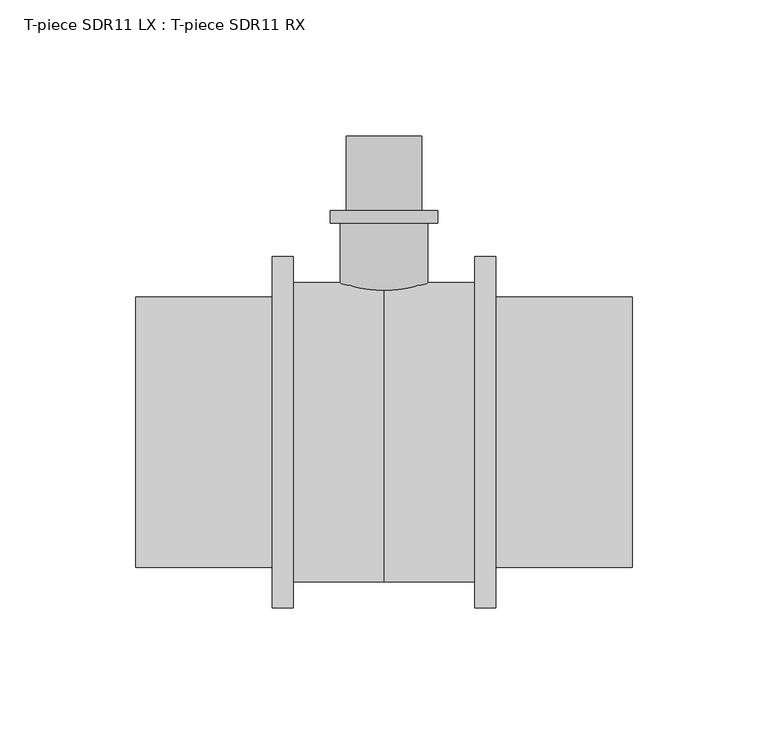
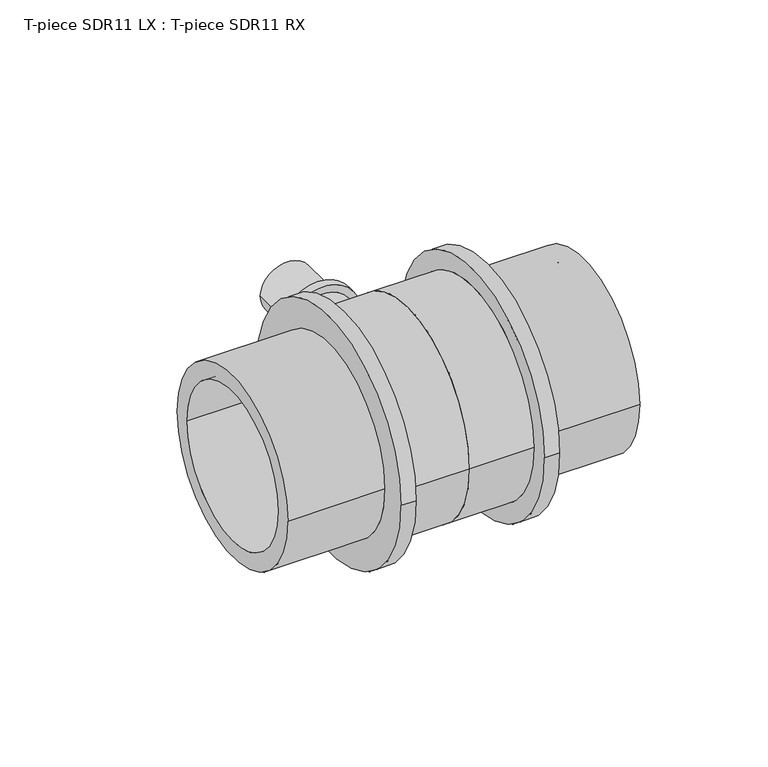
"""IFC4 building model written with IfcOpenShell, lengths in millimetres: pipe fitting geometry, T-piece SDR11 LX : T-piece SDR11 RX."""

from ifc_helpers import new_model, si_unit, point, frame, origin, place, context, project, spatial, polyline, circle_curve, ellipse_curve, trimmed, source, transform, mapped, element, save
from ifc_brep_helpers import plane_surface, cylinder_surface, revolved_surface, advanced_brep


def t_piece_sdr11_lx_t_piece_sdr11_rx_2cea22d0(model_context):
    return source(origin(), model_context, "Body", "AdvancedBrep", [
        advanced_brep(
        [(16.0, 0.6480286, 0.0), (-16.0, 0.6480286, 0.0), (-16.0, 76.9, 0.0), (16.0, 76.9, 0.0), (11.1, 109.0, 0.0), (-11.1, 109.0, 0.0), (-11.1, 0.0, 0.0), (11.1, 0.0, 0.0), (13.9, 81.5, 0.0), (-13.9, 81.5, 0.0), (-13.9, 109.0, 0.0), (13.9, 109.0, 0.0), (19.75, 76.9, 0.0), (-19.75, 76.9, 0.0), (-19.75, 81.5, 0.0), (19.75, 81.5, 0.0)],
        [
            (0, 1, circle_curve(frame((0.0, 0.6480286, 0.0), z_axis=(0.0, 1.0, 0.0), x_axis=(-1.0, 0.0, 0.0)), 16.0)),
            (1, 2),
            (2, 3, circle_curve(frame((0.0, 76.9, 0.0), z_axis=(0.0, -1.0, 0.0), x_axis=(-1.0, 0.0, 0.0)), 16.0)),
            (3, 0),
            (4, 5, circle_curve(frame((0.0, 109.0, 0.0), z_axis=(0.0, 1.0, 0.0), x_axis=(-1.0, 0.0, 0.0)), 11.1)),
            (5, 6),
            (6, 7, circle_curve(frame((0.0, 0.0, 0.0), z_axis=(0.0, -1.0, 0.0), x_axis=(-1.0, 0.0, 0.0)), 11.1)),
            (7, 4),
            (8, 9, circle_curve(frame((0.0, 81.5, 0.0), z_axis=(0.0, 1.0, 0.0), x_axis=(-1.0, 0.0, 0.0)), 13.9)),
            (9, 10),
            (10, 11, circle_curve(frame((0.0, 109.0, 0.0), z_axis=(0.0, -1.0, 0.0), x_axis=(-1.0, 0.0, 0.0)), 13.9)),
            (11, 8),
            (12, 13, circle_curve(frame((0.0, 76.9, 0.0), z_axis=(0.0, 1.0, 0.0), x_axis=(-1.0, 0.0, 0.0)), 19.75)),
            (13, 14),
            (14, 15, circle_curve(frame((0.0, 81.5, 0.0), z_axis=(0.0, -1.0, 0.0), x_axis=(-1.0, 0.0, 0.0)), 19.75)),
            (15, 12),
            (12, 13, circle_curve(frame((0.0, 76.9, 0.0), z_axis=(0.0, -1.0, 0.0), x_axis=(1.0, 0.0, 0.0)), 19.75)),
            (2, 3, circle_curve(frame((0.0, 76.9, 0.0), z_axis=(0.0, 1.0, 0.0), x_axis=(1.0, 0.0, 0.0)), 16.0)),
            (1, 0, circle_curve(frame((0.0, 0.6480286, 0.0), z_axis=(0.0, 1.0, 0.0), x_axis=(1.0, 0.0, 0.0)), 16.0)),
            (5, 4, circle_curve(frame((0.0, 109.0, 0.0), z_axis=(0.0, 1.0, 0.0), x_axis=(1.0, 0.0, 0.0)), 11.1)),
            (7, 6, circle_curve(frame((0.0, 0.0, 0.0), z_axis=(0.0, -1.0, 0.0), x_axis=(1.0, 0.0, 0.0)), 11.1)),
            (10, 11, circle_curve(frame((0.0, 109.0, 0.0), z_axis=(0.0, 1.0, 0.0), x_axis=(1.0, 0.0, 0.0)), 13.9)),
            (9, 8, circle_curve(frame((0.0, 81.5, 0.0), z_axis=(0.0, 1.0, 0.0), x_axis=(1.0, 0.0, 0.0)), 13.9)),
            (14, 15, circle_curve(frame((0.0, 81.5, 0.0), z_axis=(0.0, 1.0, 0.0), x_axis=(1.0, 0.0, 0.0)), 19.75)),
            (6, 1, circle_curve(frame((-6.3462802, 54.7941799, 0.0), z_axis=(0.0, 0.0, -1.0), x_axis=(0.0, -1.0, 0.0)), 55.0)),
            (0, 7, circle_curve(frame((6.3462802, 54.7941799, 0.0), z_axis=(0.0, 0.0, -1.0), x_axis=(0.0, -1.0, 0.0)), 55.0)),
        ],
        [
            cylinder_surface(frame((0.0, 0.0, 0.0), z_axis=(0.0, -1.0, 0.0), x_axis=(-1.0, 0.0, 0.0)), 16.0),
            revolved_surface(polyline([(-11.1, 0.0, 0.0), (-11.1, 109.0, 0.0)]), (0.0, 0.0, 0.0), (0.0, -1.0, 0.0)),
            cylinder_surface(frame((0.0, 0.0, 0.0), z_axis=(0.0, -1.0, 0.0), x_axis=(-1.0, 0.0, 0.0)), 13.9),
            cylinder_surface(frame((0.0, 0.0, 0.0), z_axis=(0.0, -1.0, 0.0), x_axis=(-1.0, 0.0, 0.0)), 19.75),
            plane_surface(frame((0.0, 76.9, 0.0), z_axis=(0.0, -1.0, 0.0), x_axis=(1.0, 0.0, 0.0))),
            cylinder_surface(frame((0.0, 0.0, 0.0), z_axis=(0.0, -1.0, 0.0), x_axis=(1.0, 0.0, 0.0)), 16.0),
            revolved_surface(polyline([(11.1, 0.0, 0.0), (11.1, 109.0, 0.0)]), (0.0, 0.0, 0.0), (0.0, -1.0, 0.0)),
            plane_surface(frame((0.0, 109.0, 0.0), z_axis=(0.0, 1.0, 0.0), x_axis=(1.0, 0.0, 0.0))),
            cylinder_surface(frame((0.0, 0.0, 0.0), z_axis=(0.0, -1.0, 0.0), x_axis=(1.0, 0.0, 0.0)), 13.9),
            plane_surface(frame((0.0, 81.5, 0.0), z_axis=(0.0, 1.0, 0.0), x_axis=(1.0, 0.0, 0.0))),
            cylinder_surface(frame((0.0, 0.0, 0.0), z_axis=(0.0, -1.0, 0.0), x_axis=(1.0, 0.0, 0.0)), 19.75),
            revolved_surface(trimmed(ellipse_curve(frame((-6.3462802, 54.7941799, 0.0), z_axis=(0.0, 0.0, 1.0), x_axis=(0.0, -1.0, 0.0)), 55.0, 55.0), [point((-16.0, 0.6480286, 0.0))], [point((-11.1, 0.0, 0.0))], True, "CARTESIAN"), (0.0, 0.0, 0.0), (0.0, -1.0, 0.0)),
            revolved_surface(trimmed(ellipse_curve(frame((6.3462802, 54.7941799, 0.0), z_axis=(0.0, 0.0, -1.0), x_axis=(0.0, -1.0, 0.0)), 55.0, 55.0), [point((16.0, 0.6480286, 0.0))], [point((11.1, 0.0, 0.0))], True, "CARTESIAN"), (0.0, 0.0, 0.0), (0.0, -1.0, 0.0)),
        ],
        [
            (0, [[1, 2, 3, 4]]),
            (1, [[5, 6, 7, 8]]),
            (2, [[9, 10, 11, 12]]),
            (3, [[13, 14, 15, 16]]),
            (4, [[17, -13], [18, -3]]),
            (5, [[19, -4, -18, -2]]),
            (6, [[20, -8, 21, -6]]),
            (7, [[22, -11], [-20, -5]]),
            (8, [[23, -12, -22, -10]]),
            (9, [[24, -15], [-23, -9]]),
            (10, [[-17, -16, -24, -14]]),
            (11, [[-7, 25, -1, 26]]),
            (12, [[-21, -26, -19, -25]]),
        ],
    ),
        advanced_brep(
        [(33.3, 55.0, 0.0), (33.3, -55.0, 0.0), (0.0, -55.0, 0.0), (0.0, 55.0, 0.0), (0.0, 40.8, 0.0), (0.0, -40.8, 0.0), (91.2, -40.8, 0.0), (91.2, 40.8, 0.0), (91.2, 49.75, 0.0), (91.2, -49.75, 0.0), (41.1, -49.75, 0.0), (41.1, 49.75, 0.0), (41.1, 64.65, 0.0), (41.1, -64.65, 0.0), (33.3, -64.65, 0.0), (33.3, 64.65, 0.0)],
        [
            (0, 1, circle_curve(frame((33.3, 0.0, 0.0), z_axis=(-1.0, 0.0, 0.0), x_axis=(0.0, -1.0, 0.0)), 55.0)),
            (1, 2),
            (2, 3, circle_curve(frame((0.0, 0.0, 0.0), z_axis=(1.0, 0.0, 0.0), x_axis=(0.0, -1.0, 0.0)), 55.0)),
            (3, 0),
            (4, 5, circle_curve(frame((0.0, 0.0, 0.0), z_axis=(-1.0, 0.0, 0.0), x_axis=(0.0, -1.0, 0.0)), 40.8)),
            (5, 6),
            (6, 7, circle_curve(frame((91.2, 0.0, 0.0), z_axis=(1.0, 0.0, 0.0), x_axis=(0.0, -1.0, 0.0)), 40.8)),
            (7, 4),
            (8, 9, circle_curve(frame((91.2, 0.0, 0.0), z_axis=(-1.0, 0.0, 0.0), x_axis=(0.0, -1.0, 0.0)), 49.75)),
            (9, 10),
            (10, 11, circle_curve(frame((41.1, 0.0, 0.0), z_axis=(1.0, 0.0, 0.0), x_axis=(0.0, -1.0, 0.0)), 49.75)),
            (11, 8),
            (12, 13, circle_curve(frame((41.1, 0.0, 0.0), z_axis=(-1.0, 0.0, 0.0), x_axis=(0.0, -1.0, 0.0)), 64.65)),
            (13, 14),
            (14, 15, circle_curve(frame((33.3, 0.0, 0.0), z_axis=(1.0, 0.0, 0.0), x_axis=(0.0, -1.0, 0.0)), 64.65)),
            (15, 12),
            (14, 15, circle_curve(frame((33.3, 0.0, 0.0), z_axis=(-1.0, 0.0, 0.0), x_axis=(0.0, 1.0, 0.0)), 64.65)),
            (0, 1, circle_curve(frame((33.3, 0.0, 0.0), z_axis=(1.0, 0.0, 0.0), x_axis=(0.0, 1.0, 0.0)), 55.0)),
            (3, 2, circle_curve(frame((0.0, 0.0, 0.0), z_axis=(1.0, 0.0, 0.0), x_axis=(0.0, 1.0, 0.0)), 55.0)),
            (4, 5, circle_curve(frame((0.0, 0.0, 0.0), z_axis=(1.0, 0.0, 0.0), x_axis=(0.0, 1.0, 0.0)), 40.8)),
            (7, 6, circle_curve(frame((91.2, 0.0, 0.0), z_axis=(1.0, 0.0, 0.0), x_axis=(0.0, 1.0, 0.0)), 40.8)),
            (8, 9, circle_curve(frame((91.2, 0.0, 0.0), z_axis=(1.0, 0.0, 0.0), x_axis=(0.0, 1.0, 0.0)), 49.75)),
            (11, 10, circle_curve(frame((41.1, 0.0, 0.0), z_axis=(1.0, 0.0, 0.0), x_axis=(0.0, 1.0, 0.0)), 49.75)),
            (12, 13, circle_curve(frame((41.1, 0.0, 0.0), z_axis=(1.0, 0.0, 0.0), x_axis=(0.0, 1.0, 0.0)), 64.65)),
        ],
        [
            cylinder_surface(frame((0.0, 0.0, 0.0), z_axis=(1.0, 0.0, 0.0), x_axis=(0.0, -1.0, 0.0)), 55.0),
            revolved_surface(polyline([(91.2, -40.8, 0.0), (0.0, -40.8, 0.0)]), (0.0, 0.0, 0.0), (1.0, 0.0, 0.0)),
            cylinder_surface(frame((0.0, 0.0, 0.0), z_axis=(1.0, 0.0, 0.0), x_axis=(0.0, -1.0, 0.0)), 49.75),
            cylinder_surface(frame((0.0, 0.0, 0.0), z_axis=(1.0, 0.0, 0.0), x_axis=(0.0, -1.0, 0.0)), 64.65),
            plane_surface(frame((33.3, 0.0, 0.0), z_axis=(-1.0, 0.0, 0.0), x_axis=(0.0, 1.0, 0.0))),
            cylinder_surface(frame((0.0, 0.0, 0.0), z_axis=(1.0, 0.0, 0.0), x_axis=(0.0, 1.0, 0.0)), 55.0),
            plane_surface(frame((0.0, 0.0, 0.0), z_axis=(-1.0, 0.0, 0.0), x_axis=(0.0, 1.0, 0.0))),
            revolved_surface(polyline([(91.2, 40.8, 0.0), (0.0, 40.8, 0.0)]), (0.0, 0.0, 0.0), (1.0, 0.0, 0.0)),
            plane_surface(frame((91.2, 0.0, 0.0), z_axis=(1.0, 0.0, 0.0), x_axis=(0.0, 1.0, 0.0))),
            cylinder_surface(frame((0.0, 0.0, 0.0), z_axis=(1.0, 0.0, 0.0), x_axis=(0.0, 1.0, 0.0)), 49.75),
            plane_surface(frame((41.1, 0.0, 0.0), z_axis=(1.0, 0.0, 0.0), x_axis=(0.0, 1.0, 0.0))),
            cylinder_surface(frame((0.0, 0.0, 0.0), z_axis=(1.0, 0.0, 0.0), x_axis=(0.0, 1.0, 0.0)), 64.65),
        ],
        [
            (0, [[1, 2, 3, 4]]),
            (1, [[5, 6, 7, 8]]),
            (2, [[9, 10, 11, 12]]),
            (3, [[13, 14, 15, 16]]),
            (4, [[17, -15], [18, -1]]),
            (5, [[-18, -4, 19, -2]]),
            (6, [[-19, -3], [20, -5]]),
            (7, [[-20, -8, 21, -6]]),
            (8, [[22, -9], [-21, -7]]),
            (9, [[-22, -12, 23, -10]]),
            (10, [[24, -13], [-23, -11]]),
            (11, [[-24, -16, -17, -14]]),
        ],
    ),
        advanced_brep(
        [(0.0, 55.0, 0.0), (0.0, -55.0, 0.0), (-33.3, -55.0, 0.0), (-33.3, 55.0, 0.0), (-91.2, 40.8, 0.0), (-91.2, -40.8, 0.0), (0.0, -40.8, 0.0), (0.0, 40.8, 0.0), (-41.1, 49.75, 0.0), (-41.1, -49.75, 0.0), (-91.2, -49.75, 0.0), (-91.2, 49.75, 0.0), (-33.3, 64.65, 0.0), (-33.3, -64.65, 0.0), (-41.1, -64.65, 0.0), (-41.1, 64.65, 0.0)],
        [
            (0, 1, circle_curve(frame((0.0, 0.0, 0.0), z_axis=(-1.0, 0.0, 0.0), x_axis=(0.0, -1.0, 0.0)), 55.0)),
            (1, 2),
            (2, 3, circle_curve(frame((-33.3, 0.0, 0.0), z_axis=(1.0, 0.0, 0.0), x_axis=(0.0, -1.0, 0.0)), 55.0)),
            (3, 0),
            (4, 5, circle_curve(frame((-91.2, 0.0, 0.0), z_axis=(-1.0, 0.0, 0.0), x_axis=(0.0, -1.0, 0.0)), 40.8)),
            (5, 6),
            (6, 7, circle_curve(frame((0.0, 0.0, 0.0), z_axis=(1.0, 0.0, 0.0), x_axis=(0.0, -1.0, 0.0)), 40.8)),
            (7, 4),
            (8, 9, circle_curve(frame((-41.1, 0.0, 0.0), z_axis=(-1.0, 0.0, 0.0), x_axis=(0.0, -1.0, 0.0)), 49.75)),
            (9, 10),
            (10, 11, circle_curve(frame((-91.2, 0.0, 0.0), z_axis=(1.0, 0.0, 0.0), x_axis=(0.0, -1.0, 0.0)), 49.75)),
            (11, 8),
            (12, 13, circle_curve(frame((-33.3, 0.0, 0.0), z_axis=(-1.0, 0.0, 0.0), x_axis=(0.0, -1.0, 0.0)), 64.65)),
            (13, 14),
            (14, 15, circle_curve(frame((-41.1, 0.0, 0.0), z_axis=(1.0, 0.0, 0.0), x_axis=(0.0, -1.0, 0.0)), 64.65)),
            (15, 12),
            (12, 13, circle_curve(frame((-33.3, 0.0, 0.0), z_axis=(1.0, 0.0, 0.0), x_axis=(0.0, 1.0, 0.0)), 64.65)),
            (2, 3, circle_curve(frame((-33.3, 0.0, 0.0), z_axis=(-1.0, 0.0, 0.0), x_axis=(0.0, 1.0, 0.0)), 55.0)),
            (1, 0, circle_curve(frame((0.0, 0.0, 0.0), z_axis=(-1.0, 0.0, 0.0), x_axis=(0.0, 1.0, 0.0)), 55.0)),
            (6, 7, circle_curve(frame((0.0, 0.0, 0.0), z_axis=(-1.0, 0.0, 0.0), x_axis=(0.0, 1.0, 0.0)), 40.8)),
            (5, 4, circle_curve(frame((-91.2, 0.0, 0.0), z_axis=(-1.0, 0.0, 0.0), x_axis=(0.0, 1.0, 0.0)), 40.8)),
            (10, 11, circle_curve(frame((-91.2, 0.0, 0.0), z_axis=(-1.0, 0.0, 0.0), x_axis=(0.0, 1.0, 0.0)), 49.75)),
            (9, 8, circle_curve(frame((-41.1, 0.0, 0.0), z_axis=(-1.0, 0.0, 0.0), x_axis=(0.0, 1.0, 0.0)), 49.75)),
            (14, 15, circle_curve(frame((-41.1, 0.0, 0.0), z_axis=(-1.0, 0.0, 0.0), x_axis=(0.0, 1.0, 0.0)), 64.65)),
        ],
        [
            cylinder_surface(frame((0.0, 0.0, 0.0), z_axis=(1.0, 0.0, 0.0), x_axis=(0.0, -1.0, 0.0)), 55.0),
            revolved_surface(polyline([(0.0, -40.8, 0.0), (-91.2, -40.8, 0.0)]), (0.0, 0.0, 0.0), (1.0, 0.0, 0.0)),
            cylinder_surface(frame((0.0, 0.0, 0.0), z_axis=(1.0, 0.0, 0.0), x_axis=(0.0, -1.0, 0.0)), 49.75),
            cylinder_surface(frame((0.0, 0.0, 0.0), z_axis=(1.0, 0.0, 0.0), x_axis=(0.0, -1.0, 0.0)), 64.65),
            plane_surface(frame((-33.3, 0.0, 0.0), z_axis=(1.0, 0.0, 0.0), x_axis=(0.0, 1.0, 0.0))),
            cylinder_surface(frame((0.0, 0.0, 0.0), z_axis=(1.0, 0.0, 0.0), x_axis=(0.0, 1.0, 0.0)), 55.0),
            plane_surface(frame((0.0, 0.0, 0.0), z_axis=(1.0, 0.0, 0.0), x_axis=(0.0, 1.0, 0.0))),
            revolved_surface(polyline([(0.0, 40.8, 0.0), (-91.2, 40.8, 0.0)]), (0.0, 0.0, 0.0), (1.0, 0.0, 0.0)),
            plane_surface(frame((-91.2, 0.0, 0.0), z_axis=(-1.0, 0.0, 0.0), x_axis=(0.0, 1.0, 0.0))),
            cylinder_surface(frame((0.0, 0.0, 0.0), z_axis=(1.0, 0.0, 0.0), x_axis=(0.0, 1.0, 0.0)), 49.75),
            plane_surface(frame((-41.1, 0.0, 0.0), z_axis=(-1.0, 0.0, 0.0), x_axis=(0.0, 1.0, 0.0))),
            cylinder_surface(frame((0.0, 0.0, 0.0), z_axis=(1.0, 0.0, 0.0), x_axis=(0.0, 1.0, 0.0)), 64.65),
        ],
        [
            (0, [[1, 2, 3, 4]]),
            (1, [[5, 6, 7, 8]]),
            (2, [[9, 10, 11, 12]]),
            (3, [[13, 14, 15, 16]]),
            (4, [[17, -13], [18, -3]]),
            (5, [[19, -4, -18, -2]]),
            (6, [[-19, -1], [20, -7]]),
            (7, [[21, -8, -20, -6]]),
            (8, [[22, -11], [-21, -5]]),
            (9, [[23, -12, -22, -10]]),
            (10, [[24, -15], [-23, -9]]),
            (11, [[-17, -16, -24, -14]]),
        ],
    ),
    ])


if __name__ == "__main__":
    model = new_model("IFC4")
    model_context = context("Model", 3, world=origin())
    ifc_project = project(units=[si_unit("LENGTHUNIT", "METRE", prefix="MILLI")], contexts=[model_context])
    site = spatial("IfcSite", under=ifc_project)
    building = spatial("IfcBuilding", under=site)
    placement = place(None, origin())
    t_piece_sdr11_lx_t_piece_sdr11_rx_shape = t_piece_sdr11_lx_t_piece_sdr11_rx_2cea22d0(model_context)
    element("IfcPipeFitting", 1, ObjectType="T-piece SDR11 LX : T-piece SDR11 RX", at=placement, inside=building, context=model_context, shape_type="MappedRepresentation", body=[
        mapped(t_piece_sdr11_lx_t_piece_sdr11_rx_shape, transform((0.0, 0.0, 0.0), x_axis=(1.0, 0.0, 0.0), y_axis=(0.0, 1.0, 0.0), z_axis=(0.0, 0.0, 1.0))),
    ])
    save(model, "model.ifc")
